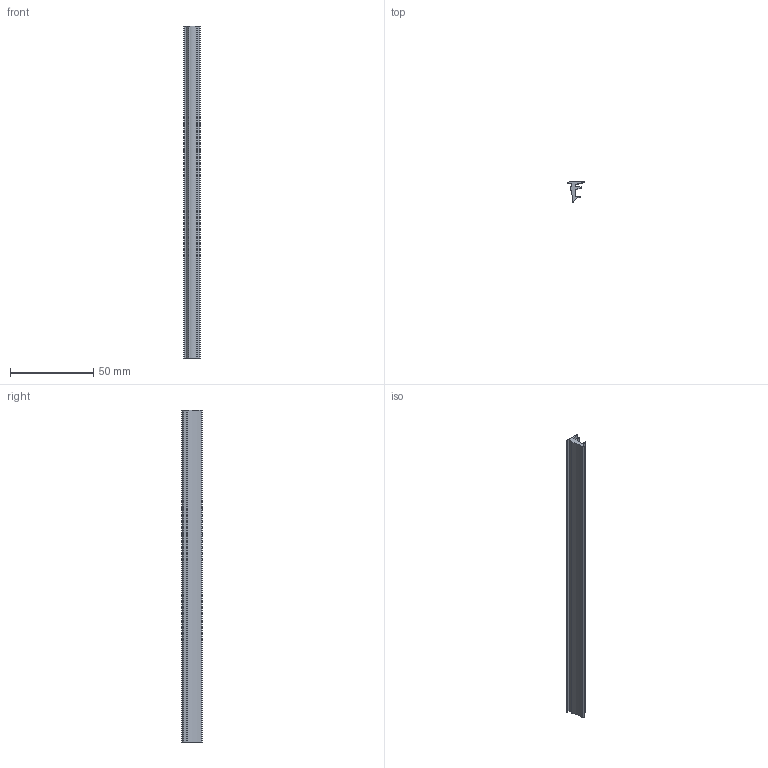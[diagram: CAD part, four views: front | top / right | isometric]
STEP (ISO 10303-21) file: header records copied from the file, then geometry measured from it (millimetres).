
FILE_DESCRIPTION(/* description */ ('Guarnizione'),/* implementation_level */ '2;1');
FILE_NAME(/* name */ 'C:\Users\Stefan.Nesic\Desktop\01010STEP\PD47ANERA.stp',/* time_stamp */ '2022-06-30T14:59:18+02:00',/* author */ ('stefan.nesic'),/* organization */ (''),/* preprocessor_version */ 'ST-DEVELOPER v18.1',/* originating_system */ 'Autodesk Inventor 2021',/* authorisation */ '');
FILE_SCHEMA (('AUTOMOTIVE_DESIGN { 1 0 10303 214 3 1 1 }'));
Length unit declared in the file: millimetre
Products named in the file (1): PD47ANERA
Bounding box: 9.66 x 12.06 x 200 mm (x, y, z)
Volume: 8088.6 mm3; surface area: 10094.5 mm2
Topology: 1 solids, 1 shells, 27 faces, 75 edges, 50 vertices
Faces by surface type: cylinder 14, plane 13
Entity records: 927 total; most frequent: DIRECTION 159, CARTESIAN_POINT 153, ORIENTED_EDGE 150, EDGE_CURVE 75, AXIS2_PLACEMENT_3D 56, VERTEX_POINT 50, LINE 47, VECTOR 47
